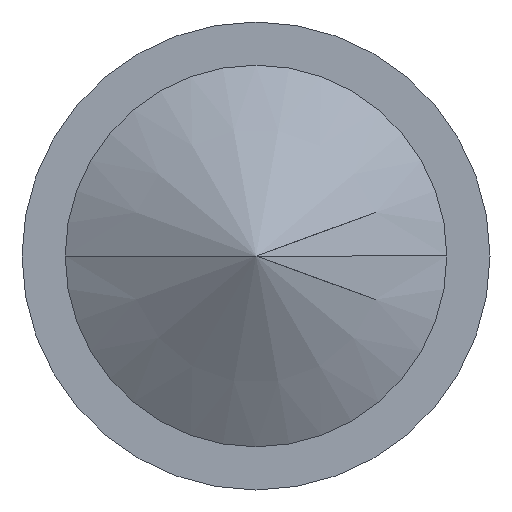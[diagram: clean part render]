
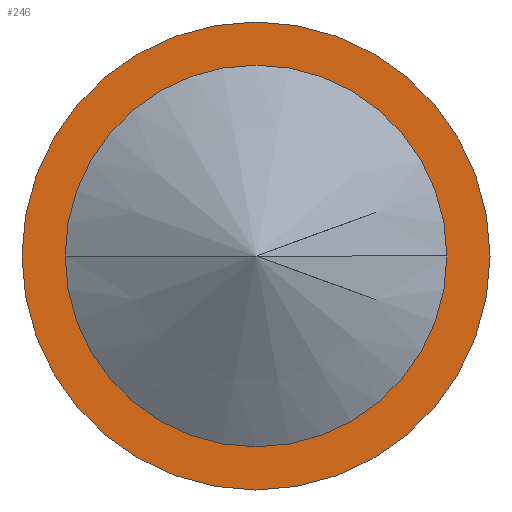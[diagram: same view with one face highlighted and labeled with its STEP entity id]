
A CAD part, left-side view. The second image highlights one B-rep face of the part: STEP entity #246.
In plain terms, the highlighted planar face has unit normal (-1, 0, 0).
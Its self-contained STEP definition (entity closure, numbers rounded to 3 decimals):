
#3 = EDGE_LOOP ( 'NONE', ( #366, #367 ) ) ;
#56 = AXIS2_PLACEMENT_3D ( 'NONE', #542, #580, #685 ) ;
#68 = AXIS2_PLACEMENT_3D ( 'NONE', #379, #380, #381 ) ;
#72 = CIRCLE ( 'NONE', #68, 1.165 ) ;
#108 = CARTESIAN_POINT ( 'NONE',  ( 0., 0., -0.575 ) ) ;
#111 = CARTESIAN_POINT ( 'NONE',  ( 0., 0., -1.165 ) ) ;
#113 = CARTESIAN_POINT ( 'NONE',  ( 0., 0., 1.165 ) ) ;
#115 = CARTESIAN_POINT ( 'NONE',  ( 0., 0., 0.575 ) ) ;
#151 = CARTESIAN_POINT ( 'NONE',  ( 0., 0., 0. ) ) ;
#152 = DIRECTION ( 'NONE',  ( -1., 0., 0. ) ) ;
#153 = DIRECTION ( 'NONE',  ( 0., 0., 1. ) ) ;
#197 = EDGE_CURVE ( 'NONE', #648, #657, #593, .T. ) ;
#202 = EDGE_CURVE ( 'NONE', #655, #653, #592, .T. ) ;
#212 = EDGE_CURVE ( 'NONE', #653, #655, #72, .T. ) ;
#246 = ADVANCED_FACE ( 'NONE', ( #545, #546 ), #547, .F. ) ;
#280 = EDGE_CURVE ( 'NONE', #657, #648, #457, .T. ) ;
#364 = ORIENTED_EDGE ( 'NONE', *, *, #280, .F. ) ;
#365 = ORIENTED_EDGE ( 'NONE', *, *, #197, .F. ) ;
#366 = ORIENTED_EDGE ( 'NONE', *, *, #202, .T. ) ;
#367 = ORIENTED_EDGE ( 'NONE', *, *, #212, .T. ) ;
#379 = CARTESIAN_POINT ( 'NONE',  ( 0., 0., 0. ) ) ;
#380 = DIRECTION ( 'NONE',  ( -1., 0., 0. ) ) ;
#381 = DIRECTION ( 'NONE',  ( 0., 0., 1. ) ) ;
#456 = AXIS2_PLACEMENT_3D ( 'NONE', #151, #152, #153 ) ;
#457 = CIRCLE ( 'NONE', #456, 0.575 ) ;
#542 = CARTESIAN_POINT ( 'NONE',  ( 0., -14.994, 0. ) ) ;
#545 = FACE_BOUND ( 'NONE', #628, .T. ) ;
#546 = FACE_OUTER_BOUND ( 'NONE', #3, .T. ) ;
#547 = PLANE ( 'NONE',  #56 ) ;
#580 = DIRECTION ( 'NONE',  ( 1., 0., 0. ) ) ;
#589 = AXIS2_PLACEMENT_3D ( 'NONE', #620, #621, #622 ) ;
#592 = CIRCLE ( 'NONE', #594, 1.165 ) ;
#593 = CIRCLE ( 'NONE', #589, 0.575 ) ;
#594 = AXIS2_PLACEMENT_3D ( 'NONE', #609, #610, #611 ) ;
#609 = CARTESIAN_POINT ( 'NONE',  ( 0., 0., 0. ) ) ;
#610 = DIRECTION ( 'NONE',  ( -1., 0., 0. ) ) ;
#611 = DIRECTION ( 'NONE',  ( 0., 0., 1. ) ) ;
#620 = CARTESIAN_POINT ( 'NONE',  ( 0., 0., 0. ) ) ;
#621 = DIRECTION ( 'NONE',  ( -1., 0., 0. ) ) ;
#622 = DIRECTION ( 'NONE',  ( 0., 0., 1. ) ) ;
#628 = EDGE_LOOP ( 'NONE', ( #364, #365 ) ) ;
#648 = VERTEX_POINT ( 'NONE', #108 ) ;
#653 = VERTEX_POINT ( 'NONE', #111 ) ;
#655 = VERTEX_POINT ( 'NONE', #113 ) ;
#657 = VERTEX_POINT ( 'NONE', #115 ) ;
#685 = DIRECTION ( 'NONE',  ( 0., 0., -1. ) ) ;
